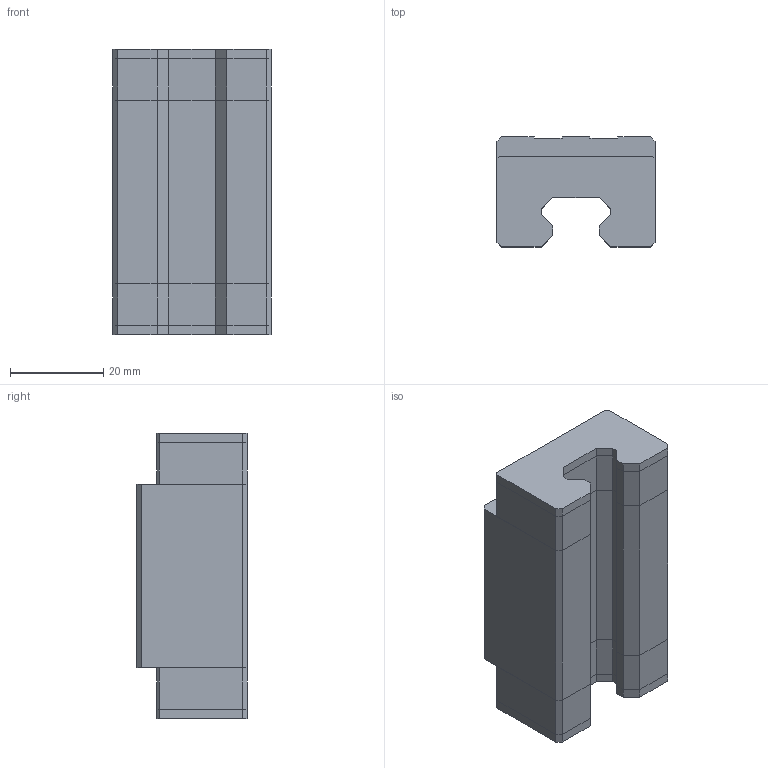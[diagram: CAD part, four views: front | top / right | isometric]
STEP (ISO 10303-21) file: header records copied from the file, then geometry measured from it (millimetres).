
FILE_DESCRIPTION(('STEP AP214'), '1');
FILE_NAME('HGH15CAZ0C - Êàðåòêà', '', ('UNSPECIFIED'), ('UNSPECIFIED'), 'ASCON STEP Converter 1.3', 'ASCON Math Kernel', '');
FILE_SCHEMA(('AUTOMOTIVE_DESIGN { 1 0 10303 214 3 1 1}'));
Length unit declared in the file: millimetre
Products named in the file (1): HGH15CA
Bounding box: 34 x 23.7 x 61.4 mm (x, y, z)
Volume: 37609 mm3; surface area: 14112 mm2
Topology: 5 solids, 5 shells, 130 faces, 352 edges, 232 vertices
Faces by surface type: plane 118, cone 8, cylinder 4
Full cylindrical faces by diameter (mm): 3.242 x4
Entity records: 5016 total; most frequent: CARTESIAN_POINT 695, ORIENTED_EDGE 672, DIRECTION 610, EDGE_CURVE 336, LINE 324, VECTOR 324, VERTEX_POINT 228, AXIS2_PLACEMENT_3D 143
